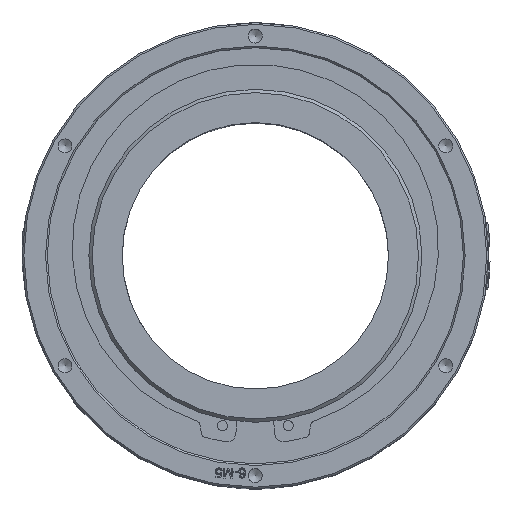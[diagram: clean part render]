
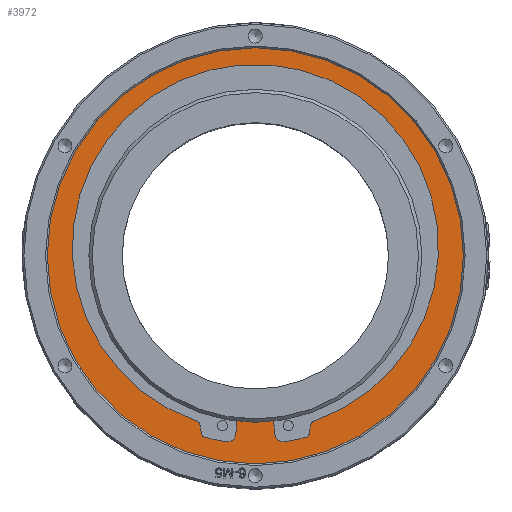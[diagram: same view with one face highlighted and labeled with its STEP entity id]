
A CAD part, top view. The second image highlights one B-rep face of the part: STEP entity #3972.
In plain terms, the highlighted planar face has unit normal (0, 0, 1).
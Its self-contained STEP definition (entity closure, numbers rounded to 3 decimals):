
#208=FACE_BOUND('',#7244,.T.);
#209=FACE_BOUND('',#7245,.T.);
#573=CIRCLE('',#26653,62.5);
#574=CIRCLE('',#26654,2.5);
#575=CIRCLE('',#26655,48.25);
#576=CIRCLE('',#26656,2.5);
#577=CIRCLE('',#26657,2.5);
#578=CIRCLE('',#26658,59.);
#579=CIRCLE('',#26659,1.5);
#580=CIRCLE('',#26660,1.5);
#581=CIRCLE('',#26661,55.);
#582=CIRCLE('',#26662,1.5);
#583=CIRCLE('',#26663,1.5);
#584=CIRCLE('',#26664,59.);
#585=CIRCLE('',#26665,2.5);
#1668=LINE('',#43887,#2581);
#1669=LINE('',#43896,#2582);
#1670=LINE('',#43904,#2583);
#1671=LINE('',#43912,#2584);
#2581=VECTOR('',#28659,1.);
#2582=VECTOR('',#28666,1.);
#2583=VECTOR('',#28673,1.);
#2584=VECTOR('',#28680,1.);
#3972=ADVANCED_FACE('',(#208,#209),#5024,.T.);
#5024=PLANE('',#26666);
#7244=EDGE_LOOP('',(#11047));
#7245=EDGE_LOOP('',(#11048,#11049,#11050,#11051,#11052,#11053,#11054,#11055,
#11056,#11057,#11058,#11059,#11060,#11061,#11062,#11063));
#11047=ORIENTED_EDGE('',*,*,#20618,.F.);
#11048=ORIENTED_EDGE('',*,*,#20619,.T.);
#11049=ORIENTED_EDGE('',*,*,#20620,.T.);
#11050=ORIENTED_EDGE('',*,*,#20621,.F.);
#11051=ORIENTED_EDGE('',*,*,#20622,.T.);
#11052=ORIENTED_EDGE('',*,*,#20623,.T.);
#11053=ORIENTED_EDGE('',*,*,#20624,.T.);
#11054=ORIENTED_EDGE('',*,*,#20625,.F.);
#11055=ORIENTED_EDGE('',*,*,#20626,.T.);
#11056=ORIENTED_EDGE('',*,*,#20627,.F.);
#11057=ORIENTED_EDGE('',*,*,#20628,.T.);
#11058=ORIENTED_EDGE('',*,*,#20629,.F.);
#11059=ORIENTED_EDGE('',*,*,#20630,.T.);
#11060=ORIENTED_EDGE('',*,*,#20631,.T.);
#11061=ORIENTED_EDGE('',*,*,#20632,.T.);
#11062=ORIENTED_EDGE('',*,*,#20633,.F.);
#11063=ORIENTED_EDGE('',*,*,#20634,.T.);
#17343=VERTEX_POINT('',#43886);
#17344=VERTEX_POINT('',#43888);
#17345=VERTEX_POINT('',#43889);
#17346=VERTEX_POINT('',#43891);
#17347=VERTEX_POINT('',#43893);
#17348=VERTEX_POINT('',#43895);
#17349=VERTEX_POINT('',#43897);
#17350=VERTEX_POINT('',#43899);
#17351=VERTEX_POINT('',#43901);
#17352=VERTEX_POINT('',#43903);
#17353=VERTEX_POINT('',#43905);
#17354=VERTEX_POINT('',#43907);
#17355=VERTEX_POINT('',#43909);
#17356=VERTEX_POINT('',#43911);
#17357=VERTEX_POINT('',#43913);
#17358=VERTEX_POINT('',#43915);
#17359=VERTEX_POINT('',#43917);
#20618=EDGE_CURVE('',#17343,#17343,#573,.T.);
#20619=EDGE_CURVE('',#17344,#17345,#1668,.T.);
#20620=EDGE_CURVE('',#17345,#17346,#574,.T.);
#20621=EDGE_CURVE('',#17347,#17346,#575,.T.);
#20622=EDGE_CURVE('',#17347,#17348,#576,.T.);
#20623=EDGE_CURVE('',#17348,#17349,#1669,.T.);
#20624=EDGE_CURVE('',#17349,#17350,#577,.T.);
#20625=EDGE_CURVE('',#17351,#17350,#578,.T.);
#20626=EDGE_CURVE('',#17351,#17352,#579,.T.);
#20627=EDGE_CURVE('',#17353,#17352,#1670,.T.);
#20628=EDGE_CURVE('',#17353,#17354,#580,.T.);
#20629=EDGE_CURVE('',#17355,#17354,#581,.T.);
#20630=EDGE_CURVE('',#17355,#17356,#582,.T.);
#20631=EDGE_CURVE('',#17356,#17357,#1671,.T.);
#20632=EDGE_CURVE('',#17357,#17358,#583,.T.);
#20633=EDGE_CURVE('',#17359,#17358,#584,.T.);
#20634=EDGE_CURVE('',#17359,#17344,#585,.T.);
#26653=AXIS2_PLACEMENT_3D('',#43885,#28657,#28658);
#26654=AXIS2_PLACEMENT_3D('',#43890,#28660,#28661);
#26655=AXIS2_PLACEMENT_3D('',#43892,#28662,#28663);
#26656=AXIS2_PLACEMENT_3D('',#43894,#28664,#28665);
#26657=AXIS2_PLACEMENT_3D('',#43898,#28667,#28668);
#26658=AXIS2_PLACEMENT_3D('',#43900,#28669,#28670);
#26659=AXIS2_PLACEMENT_3D('',#43902,#28671,#28672);
#26660=AXIS2_PLACEMENT_3D('',#43906,#28674,#28675);
#26661=AXIS2_PLACEMENT_3D('',#43908,#28676,#28677);
#26662=AXIS2_PLACEMENT_3D('',#43910,#28678,#28679);
#26663=AXIS2_PLACEMENT_3D('',#43914,#28681,#28682);
#26664=AXIS2_PLACEMENT_3D('',#43916,#28683,#28684);
#26665=AXIS2_PLACEMENT_3D('',#43918,#28685,#28686);
#26666=AXIS2_PLACEMENT_3D('',#43919,#28687,#28688);
#28657=DIRECTION('',(0.,0.,-1.));
#28658=DIRECTION('',(1.,0.,0.));
#28659=DIRECTION('',(-0.105,0.995,0.));
#28660=DIRECTION('',(0.,0.,-1.));
#28661=DIRECTION('',(1.,0.,0.));
#28662=DIRECTION('',(0.,0.,1.));
#28663=DIRECTION('',(1.,0.,0.));
#28664=DIRECTION('',(0.,0.,-1.));
#28665=DIRECTION('',(1.,0.,0.));
#28666=DIRECTION('',(-0.105,-0.995,0.));
#28667=DIRECTION('',(0.,0.,-1.));
#28668=DIRECTION('',(1.,0.,0.));
#28669=DIRECTION('',(0.,0.,1.));
#28670=DIRECTION('',(1.,0.,0.));
#28671=DIRECTION('',(0.,0.,-1.));
#28672=DIRECTION('',(1.,0.,0.));
#28673=DIRECTION('',(0.174,-0.985,0.));
#28674=DIRECTION('',(0.,0.,1.));
#28675=DIRECTION('',(1.,0.,0.));
#28676=DIRECTION('',(0.,0.,1.));
#28677=DIRECTION('',(1.,0.,0.));
#28678=DIRECTION('',(0.,0.,1.));
#28679=DIRECTION('',(1.,0.,0.));
#28680=DIRECTION('',(-0.174,-0.985,0.));
#28681=DIRECTION('',(0.,0.,-1.));
#28682=DIRECTION('',(1.,0.,0.));
#28683=DIRECTION('',(0.,0.,1.));
#28684=DIRECTION('',(1.,0.,0.));
#28685=DIRECTION('',(0.,0.,-1.));
#28686=DIRECTION('',(1.,0.,0.));
#28687=DIRECTION('',(0.,0.,1.));
#28688=DIRECTION('',(-1.,0.,0.));
#43885=CARTESIAN_POINT('',(0.,0.,89.));
#43886=CARTESIAN_POINT('',(62.5,0.,89.));
#43887=CARTESIAN_POINT('',(0.,2.5,89.));
#43888=CARTESIAN_POINT('',(5.9,-53.635,89.));
#43889=CARTESIAN_POINT('',(5.531,-50.121,89.));
#43890=CARTESIAN_POINT('',(8.017,-49.86,89.));
#43891=CARTESIAN_POINT('',(6.606,-47.796,89.));
#43892=CARTESIAN_POINT('',(0.,0.,89.));
#43893=CARTESIAN_POINT('',(-6.606,-47.796,89.));
#43894=CARTESIAN_POINT('',(-8.017,-49.86,89.));
#43895=CARTESIAN_POINT('',(-5.531,-50.121,89.));
#43896=CARTESIAN_POINT('',(0.,2.5,89.));
#43897=CARTESIAN_POINT('',(-5.9,-53.635,89.));
#43898=CARTESIAN_POINT('',(-8.386,-53.374,89.));
#43899=CARTESIAN_POINT('',(-8.757,-55.846,89.));
#43900=CARTESIAN_POINT('',(0.,2.5,89.));
#43901=CARTESIAN_POINT('',(-15.095,-54.536,89.));
#43902=CARTESIAN_POINT('',(-14.711,-53.086,89.));
#43903=CARTESIAN_POINT('',(-16.188,-53.347,89.));
#43904=CARTESIAN_POINT('',(-16.023,-54.283,89.));
#43905=CARTESIAN_POINT('',(-16.645,-50.754,89.));
#43906=CARTESIAN_POINT('',(-18.123,-51.015,89.));
#43907=CARTESIAN_POINT('',(-17.641,-49.594,89.));
#43908=CARTESIAN_POINT('',(0.,2.5,89.));
#43909=CARTESIAN_POINT('',(17.641,-49.594,89.));
#43910=CARTESIAN_POINT('',(18.123,-51.015,89.));
#43911=CARTESIAN_POINT('',(16.645,-50.754,89.));
#43912=CARTESIAN_POINT('',(25.25,-1.952,89.));
#43913=CARTESIAN_POINT('',(16.188,-53.347,89.));
#43914=CARTESIAN_POINT('',(14.711,-53.086,89.));
#43915=CARTESIAN_POINT('',(15.095,-54.536,89.));
#43916=CARTESIAN_POINT('',(0.,2.5,89.));
#43917=CARTESIAN_POINT('',(8.757,-55.846,89.));
#43918=CARTESIAN_POINT('',(8.386,-53.374,89.));
#43919=CARTESIAN_POINT('',(0.,2.5,89.));
